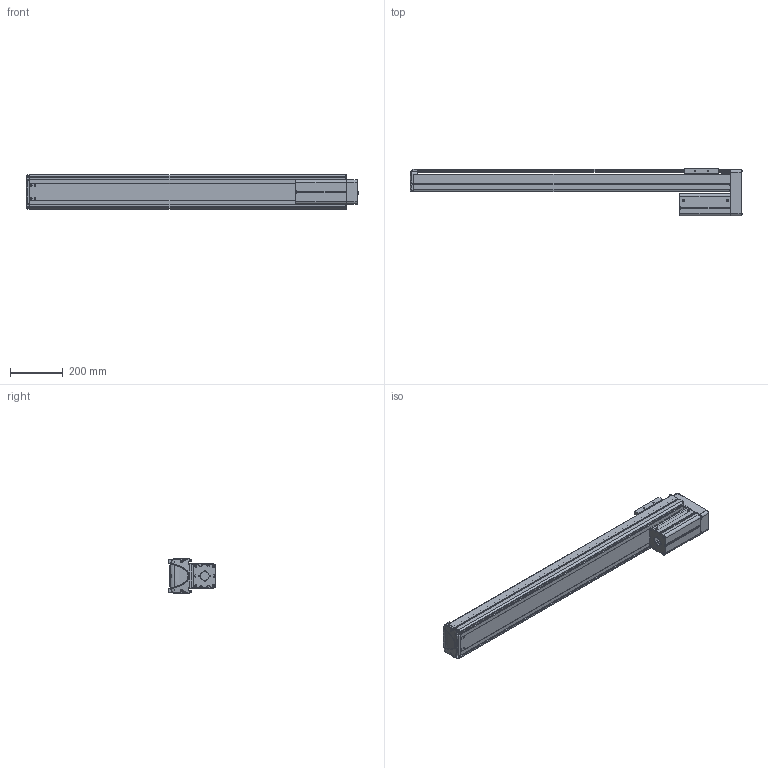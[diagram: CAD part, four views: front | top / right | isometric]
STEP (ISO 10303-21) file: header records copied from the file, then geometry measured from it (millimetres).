
FILE_DESCRIPTION((''),'2;1');
FILE_NAME('BE30E-UU-M_B-A0_IGS_PRT','2017-06-17T',(' '),(''),'PRO/ENGINEER BY PARAMETRIC TECHNOLOGY CORPORATION, 2015030','PRO/ENGINEER BY PARAMETRIC TECHNOLOGY CORPORATION, 2015030','');
FILE_SCHEMA(('CONFIG_CONTROL_DESIGN'));
Length unit declared in the file: millimetre
Products named in the file (1): BE30E-UU-M_B-A0_IGS_PRT
Bounding box: 1261.9 x 180 x 130 mm (x, y, z)
Volume: 4140383.8 mm3; surface area: 1768617.2 mm2
Topology: 2 solids, 128 shells, 2066 faces, 5587 edges, 3630 vertices
Faces by surface type: plane 997, cylinder 875, cone 105, torus 37, bspline 28, sphere 24
Entity records: 67075 total; most frequent: CARTESIAN_POINT 14222, DIRECTION 11164, ORIENTED_EDGE 10611, EDGE_CURVE 5549, AXIS2_PLACEMENT_3D 3943, VERTEX_POINT 3630, VECTOR 3278, LINE 3278
